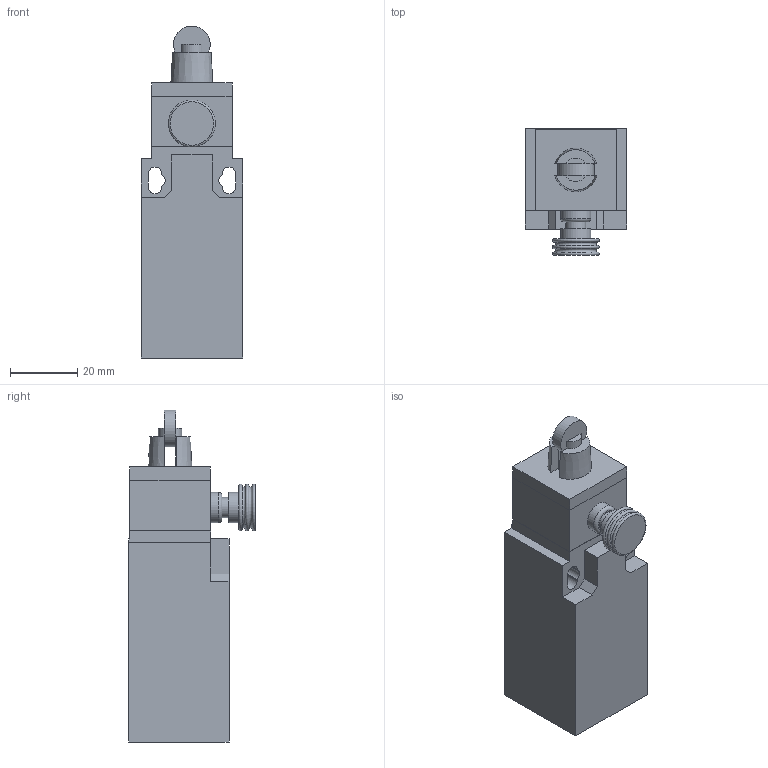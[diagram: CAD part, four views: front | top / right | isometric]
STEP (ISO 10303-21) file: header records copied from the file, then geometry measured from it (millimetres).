
FILE_DESCRIPTION((''),'2;1');
FILE_NAME('C:\Workarea\Disegni\Comepi\Catalogo\Stp\Finecorsa\AP1-R13.stp','2011-08-29T12:11:30',('Paolo'),(''),'Autodesk Inventor 2012','Autodesk Inventor 2012','');
FILE_SCHEMA(('AUTOMOTIVE_DESIGN { 1 0 10303 214 1 1 1 1 }'));
Length unit declared in the file: millimetre
Products named in the file (6): AP1-R13; AP1; R13; T12_1; T12_2; R
Assembly tree (5 placements, depth 3):
  AP1-R13
    AP1
    R13
      T12_1
      T12_2
      R
Bounding box: 30.3 x 37.9 x 99.1 mm (x, y, z)
Volume: 62112.6 mm3; surface area: 17178.7 mm2
Topology: 4 solids, 4 shells, 79 faces, 187 edges, 121 vertices
Faces by surface type: plane 57, cylinder 14, torus 6, cone 2
Full cylindrical faces by diameter (mm): 6 x1, 7 x1, 9 x2, 11 x1, 20.4 x1
Entity records: 2406 total; most frequent: DIRECTION 394, CARTESIAN_POINT 392, ORIENTED_EDGE 348, EDGE_CURVE 174, AXIS2_PLACEMENT_3D 134, VECTOR 126, LINE 126, VERTEX_POINT 120
